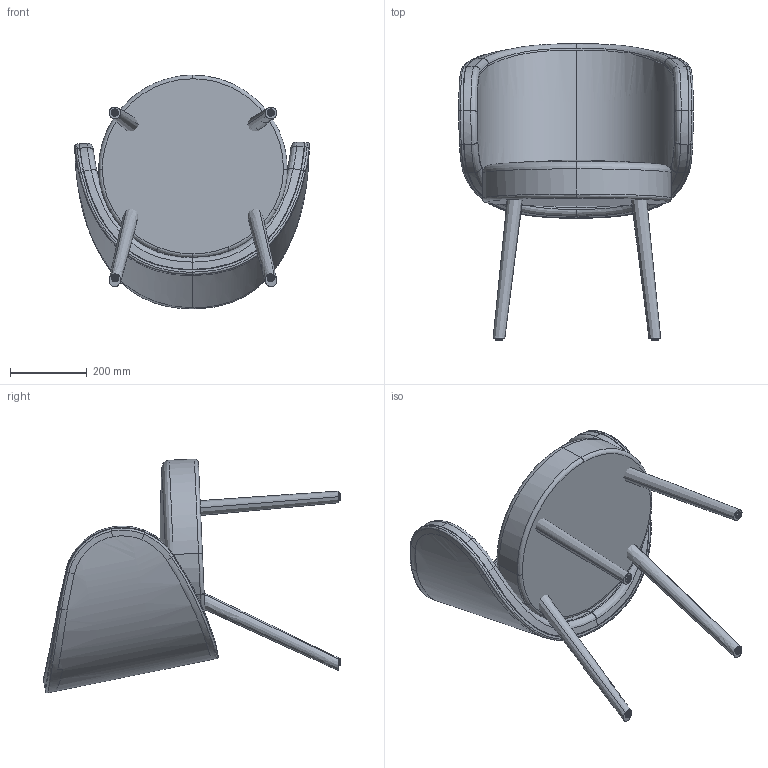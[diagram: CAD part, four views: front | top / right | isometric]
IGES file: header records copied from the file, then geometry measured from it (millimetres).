
Start section: SolidWorks IGES file using analytic representation for surfaces
Global section: file name: \\192.168.0.3\Dados\IP&C\03. Produtos MS\EVIE\03. MARKETING\07. Site\SOLIDWORKS\EV001-IGS.IGS; native system: SolidWorks 2019; preprocessor: SolidWorks 2019; author: Comunicacao1; date: 200811.163815; units: millimetre
Bounding box: 610.78 x 773.73 x 609.07 mm (x, y, z)
Volume: 37695024.9 mm3; surface area: 2319216.6 mm2
Topology: 11 solids, 11 shells, 242 faces, 554 edges, 311 vertices
Faces by surface type: bspline 171, revolution 44, plane 27
